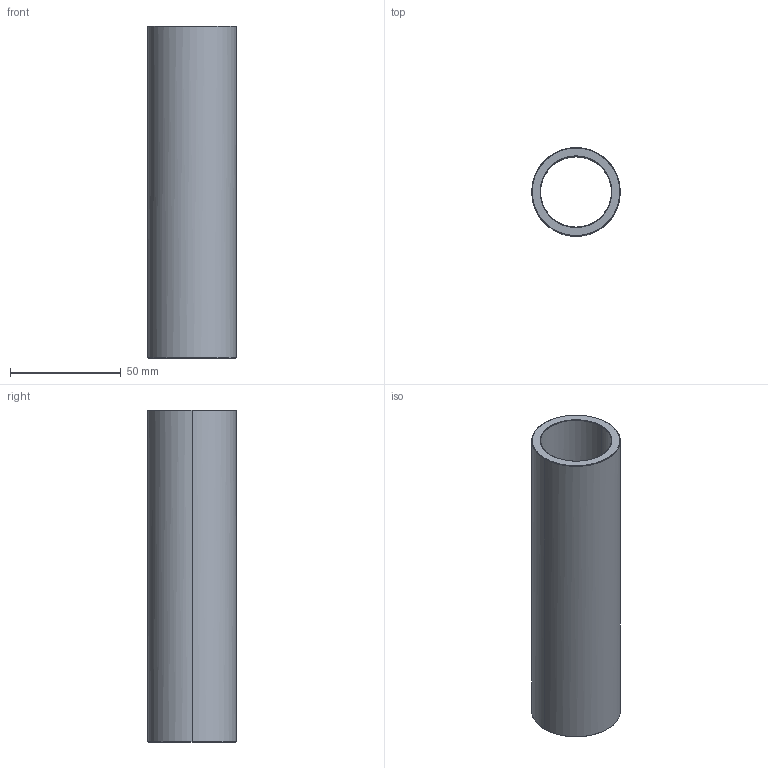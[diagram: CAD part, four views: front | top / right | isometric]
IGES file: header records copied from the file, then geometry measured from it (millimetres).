
Start section: Write IGES format                                    datakit 2008 (c)
Global section: file name: Unknown; native system: DATAKIT Converter; preprocessor: Unknown; author: Unknown; organization: Unknown; date: 950613.180003; units: millimetre
Bounding box: 40 x 39.95 x 150 mm (x, y, z)
Surface area: 34781 mm2 (no closed solid volume)
Topology: 0 solids, 0 shells, 14 faces, 56 edges, 56 vertices
Faces by surface type: revolution 12, bspline 2
